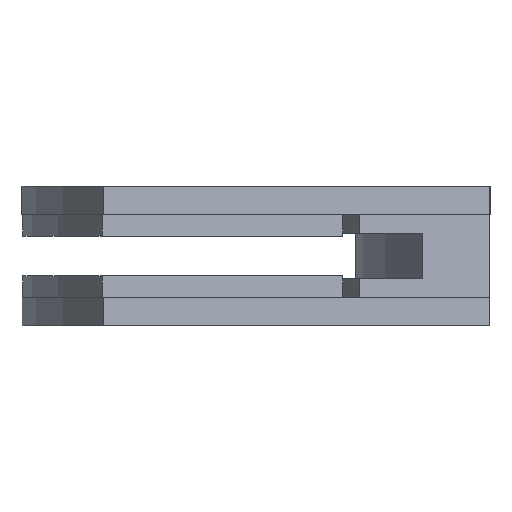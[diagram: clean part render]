
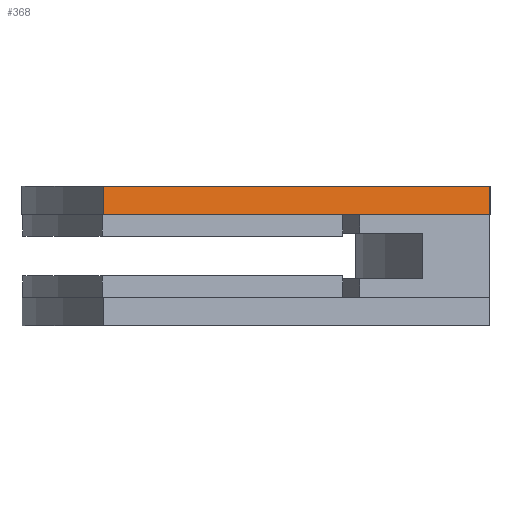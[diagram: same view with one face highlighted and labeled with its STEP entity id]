
A CAD part, front view. The second image highlights one B-rep face of the part: STEP entity #368.
In plain terms, the highlighted planar face has unit normal (0.309, -0.951, 0).
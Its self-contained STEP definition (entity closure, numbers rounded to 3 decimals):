
#202 = ORIENTED_EDGE ( 'NONE', *, *, #12927, .F. ) ;
#223 = ORIENTED_EDGE ( 'NONE', *, *, #3240, .F. ) ;
#368 = ADVANCED_FACE ( 'Defeatured_0_12', ( #485 ), #6345, .F. ) ;
#485 = FACE_OUTER_BOUND ( 'NONE', #12045, .T. ) ;
#588 = CARTESIAN_POINT ( 'NONE',  ( -262.492, -85.289, 14.8 ) ) ;
#756 = ORIENTED_EDGE ( 'NONE', *, *, #891, .T. ) ;
#891 = EDGE_CURVE ( 'Defeatured_0_12+Defeatured_0_8+Defeatured_0_11+Defeatured_0_2', #6369, #4394, #2191, .T. ) ;
#1645 = CARTESIAN_POINT ( 'NONE',  ( -344.282, -111.864, 14.8 ) ) ;
#1793 = ORIENTED_EDGE ( 'NONE', *, *, #2720, .F. ) ;
#1984 = VECTOR ( 'NONE', #3250, 1000. ) ;
#2191 = LINE ( 'NONE', #5856, #1984 ) ;
#2256 = DIRECTION ( 'NONE',  ( -0.951, -0.309, 0. ) ) ;
#2720 = EDGE_CURVE ( 'Defeatured_0_2+Defeatured_0_12+Defeatured_0_1+Defeatured_0_6', #12117, #4394, #7120, .T. ) ;
#2875 = VECTOR ( 'NONE', #4745, 1000. ) ;
#3231 = DIRECTION ( 'NONE',  ( -0.309, 0.951, 0. ) ) ;
#3240 = EDGE_CURVE ( 'Defeatured_0_13+Defeatured_0_12+Defeatured_0_11+Defeatured_0_9', #4272, #5521, #7759, .T. ) ;
#3250 = DIRECTION ( 'NONE',  ( 0.951, 0.309, 0. ) ) ;
#3651 = DIRECTION ( 'NONE',  ( 0.951, 0.309, 0. ) ) ;
#4272 = VERTEX_POINT ( 'NONE', #10387 ) ;
#4394 = VERTEX_POINT ( 'NONE', #5964 ) ;
#4745 = DIRECTION ( 'NONE',  ( 0., 0., -1. ) ) ;
#5247 = CARTESIAN_POINT ( 'NONE',  ( -344.282, -111.864, 8.8 ) ) ;
#5342 = DIRECTION ( 'NONE',  ( -0.951, -0.309, 0. ) ) ;
#5521 = VERTEX_POINT ( 'NONE', #588 ) ;
#5569 = VECTOR ( 'NONE', #3651, 1000. ) ;
#5811 = CARTESIAN_POINT ( 'NONE',  ( -262.492, -85.289, 14.8 ) ) ;
#5856 = CARTESIAN_POINT ( 'NONE',  ( -262.492, -85.289, 8.8 ) ) ;
#5964 = CARTESIAN_POINT ( 'NONE',  ( -290.072, -94.25, 8.8 ) ) ;
#6345 = PLANE ( 'NONE',  #6656 ) ;
#6369 = VERTEX_POINT ( 'NONE', #5247 ) ;
#6656 = AXIS2_PLACEMENT_3D ( 'NONE', #8245, #3231, #2256 ) ;
#6739 = ORIENTED_EDGE ( 'NONE', *, *, #7094, .T. ) ;
#7094 = EDGE_CURVE ( 'Defeatured_0_12+Defeatured_0_11+Defeatured_0_13+Defeatured_0_8', #4272, #6369, #9600, .T. ) ;
#7120 = LINE ( 'NONE', #11247, #12284 ) ;
#7759 = LINE ( 'NONE', #9026, #5569 ) ;
#8245 = CARTESIAN_POINT ( 'NONE',  ( -262.492, -85.289, 14.8 ) ) ;
#9026 = CARTESIAN_POINT ( 'NONE',  ( -262.492, -85.289, 14.8 ) ) ;
#9192 = CARTESIAN_POINT ( 'NONE',  ( -262.492, -85.289, 8.8 ) ) ;
#9600 = LINE ( 'NONE', #1645, #12831 ) ;
#9664 = DIRECTION ( 'NONE',  ( 0., 0., -1. ) ) ;
#10387 = CARTESIAN_POINT ( 'NONE',  ( -344.282, -111.864, 14.8 ) ) ;
#10734 = LINE ( 'NONE', #5811, #2875 ) ;
#11247 = CARTESIAN_POINT ( 'NONE',  ( -262.492, -85.289, 8.8 ) ) ;
#12045 = EDGE_LOOP ( 'NONE', ( #756, #1793, #202, #223, #6739 ) ) ;
#12117 = VERTEX_POINT ( 'NONE', #9192 ) ;
#12284 = VECTOR ( 'NONE', #5342, 1000. ) ;
#12831 = VECTOR ( 'NONE', #9664, 1000. ) ;
#12927 = EDGE_CURVE ( 'Defeatured_0_9+Defeatured_0_12+Defeatured_0_13+Defeatured_0_1', #5521, #12117, #10734, .T. ) ;
